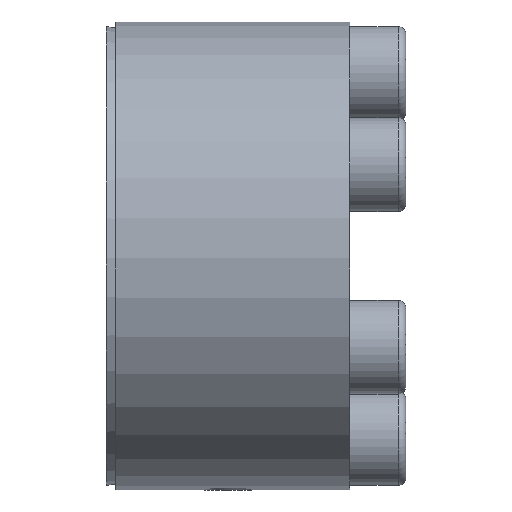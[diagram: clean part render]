
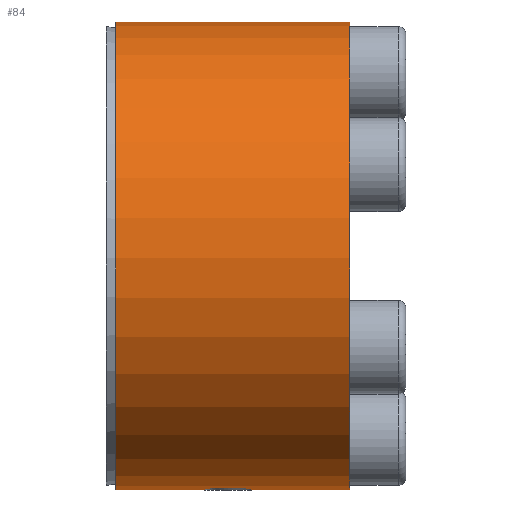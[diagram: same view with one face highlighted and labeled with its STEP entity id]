
A CAD part, left-side view. The second image highlights one B-rep face of the part: STEP entity #84.
In plain terms, the highlighted cylindrical face has radius 25 mm (diameter 50 mm), a partial arc.
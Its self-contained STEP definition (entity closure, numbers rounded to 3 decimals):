
#84 = ADVANCED_FACE( '', ( #169 ), #170, .T. );
#169 = FACE_OUTER_BOUND( '', #261, .T. );
#170 = CYLINDRICAL_SURFACE( '', #262, 25. );
#261 = EDGE_LOOP( '', ( #432, #433, #434, #435 ) );
#262 = AXIS2_PLACEMENT_3D( '', #436, #437, #438 );
#432 = ORIENTED_EDGE( '', *, *, #558, .T. );
#433 = ORIENTED_EDGE( '', *, *, #552, .T. );
#434 = ORIENTED_EDGE( '', *, *, #568, .T. );
#435 = ORIENTED_EDGE( '', *, *, #565, .T. );
#436 = CARTESIAN_POINT( '', ( 0., -60., 0. ) );
#437 = DIRECTION( '', ( 0., -1., 0. ) );
#438 = DIRECTION( '', ( 0., 0., 1. ) );
#552 = EDGE_CURVE( '', #687, #685, #688, .F. );
#558 = EDGE_CURVE( '', #695, #687, #696, .T. );
#565 = EDGE_CURVE( '', #704, #695, #705, .T. );
#568 = EDGE_CURVE( '', #685, #704, #708, .T. );
#685 = VERTEX_POINT( '', #926 );
#687 = VERTEX_POINT( '', #929 );
#688 = LINE( '', #930, #931 );
#695 = VERTEX_POINT( '', #940 );
#696 = CIRCLE( '', #941, 25. );
#704 = VERTEX_POINT( '', #951 );
#705 = LINE( '', #952, #953 );
#708 = CIRCLE( '', #957, 25. );
#926 = CARTESIAN_POINT( '', ( 13.037, -13., 21.331 ) );
#929 = CARTESIAN_POINT( '', ( 13.037, 12., 21.331 ) );
#930 = CARTESIAN_POINT( '', ( 13.037, -60., 21.331 ) );
#931 = VECTOR( '', #1047, 1000. );
#940 = CARTESIAN_POINT( '', ( 11.955, 12., 21.956 ) );
#941 = AXIS2_PLACEMENT_3D( '', #1053, #1054, #1055 );
#951 = CARTESIAN_POINT( '', ( 11.955, -13., 21.956 ) );
#952 = CARTESIAN_POINT( '', ( 11.955, -60., 21.956 ) );
#953 = VECTOR( '', #1061, 1000. );
#957 = AXIS2_PLACEMENT_3D( '', #1063, #1064, #1065 );
#1047 = DIRECTION( '', ( 0., 1., 0. ) );
#1053 = CARTESIAN_POINT( '', ( 0., 12., 0. ) );
#1054 = DIRECTION( '', ( 0., -1., 0. ) );
#1055 = DIRECTION( '', ( 0., 0., -1. ) );
#1061 = DIRECTION( '', ( 0., 1., 0. ) );
#1063 = CARTESIAN_POINT( '', ( 0., -13., 0. ) );
#1064 = DIRECTION( '', ( 0., 1., 0. ) );
#1065 = DIRECTION( '', ( 0., 0., 1. ) );
